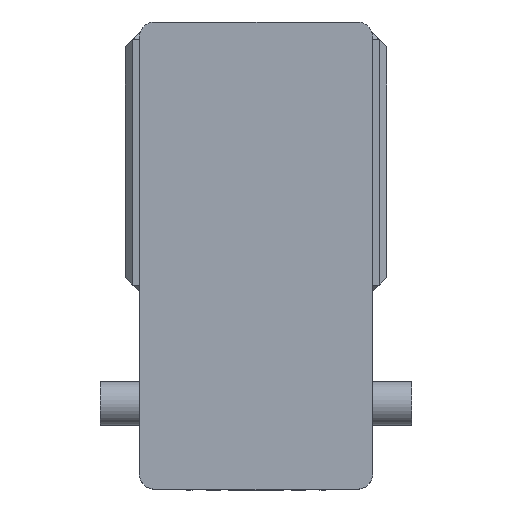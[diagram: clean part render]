
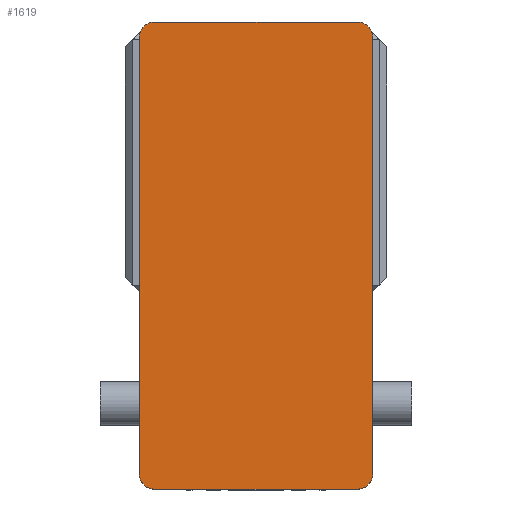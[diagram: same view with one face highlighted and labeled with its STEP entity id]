
A CAD part, left-side view. The second image highlights one B-rep face of the part: STEP entity #1619.
In plain terms, the highlighted planar face has unit normal (-1, 0, 0) as drawn and (0, 0, 1) by its records, which use the part's own axes.
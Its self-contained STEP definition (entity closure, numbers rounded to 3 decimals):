
#16 = DIRECTION ( 'NONE',  ( -1., 0., 0. ) ) ;
#118 = CARTESIAN_POINT ( 'NONE',  ( -75., 150., 105. ) ) ;
#173 = VERTEX_POINT ( 'NONE', #6109 ) ;
#624 = CARTESIAN_POINT ( 'NONE',  ( -65., -150., 105. ) ) ;
#923 = ORIENTED_EDGE ( 'NONE', *, *, #10597, .T. ) ;
#1115 = CARTESIAN_POINT ( 'NONE',  ( 75., 140., 105. ) ) ;
#1148 = CIRCLE ( 'NONE', #3225, 10. ) ;
#1201 = LINE ( 'NONE', #118, #1213 ) ;
#1213 = VECTOR ( 'NONE', #16, 1000. ) ;
#1356 = DIRECTION ( 'NONE',  ( 1., 0., 0. ) ) ;
#1367 = DIRECTION ( 'NONE',  ( 0., 0., 1. ) ) ;
#1377 = CARTESIAN_POINT ( 'NONE',  ( -65., 140., 105. ) ) ;
#1619 = ADVANCED_FACE ( 'NONE', ( #8904 ), #4923, .T. ) ;
#1628 = CIRCLE ( 'NONE', #3597, 10. ) ;
#2213 = EDGE_LOOP ( 'NONE', ( #5878, #4546, #5781, #7576, #5846, #7431, #8950, #923 ) ) ;
#2381 = VECTOR ( 'NONE', #3766, 1000. ) ;
#2466 = LINE ( 'NONE', #3796, #2381 ) ;
#2663 = VERTEX_POINT ( 'NONE', #624 ) ;
#2727 = LINE ( 'NONE', #4688, #2752 ) ;
#2752 = VECTOR ( 'NONE', #4677, 1000. ) ;
#2805 = VECTOR ( 'NONE', #3549, 1000. ) ;
#2817 = CIRCLE ( 'NONE', #6170, 10. ) ;
#2832 = LINE ( 'NONE', #3558, #2805 ) ;
#2841 = CARTESIAN_POINT ( 'NONE',  ( -65., 150., 105. ) ) ;
#2992 = VERTEX_POINT ( 'NONE', #10328 ) ;
#3153 = DIRECTION ( 'NONE',  ( 1., 0., 0. ) ) ;
#3165 = DIRECTION ( 'NONE',  ( 0., 0., 1. ) ) ;
#3179 = CARTESIAN_POINT ( 'NONE',  ( -65., -140., 105. ) ) ;
#3180 = EDGE_CURVE ( 'NONE', #173, #2992, #6362, .T. ) ;
#3225 = AXIS2_PLACEMENT_3D ( 'NONE', #10331, #10233, #10254 ) ;
#3549 = DIRECTION ( 'NONE',  ( 1., 0., 0. ) ) ;
#3558 = CARTESIAN_POINT ( 'NONE',  ( -75., -150., 105. ) ) ;
#3597 = AXIS2_PLACEMENT_3D ( 'NONE', #1377, #1367, #1356 ) ;
#3766 = DIRECTION ( 'NONE',  ( 0., -1., 0. ) ) ;
#3796 = CARTESIAN_POINT ( 'NONE',  ( -75., 150., 105. ) ) ;
#3978 = VERTEX_POINT ( 'NONE', #1115 ) ;
#4546 = ORIENTED_EDGE ( 'NONE', *, *, #3180, .T. ) ;
#4677 = DIRECTION ( 'NONE',  ( 0., 1., 0. ) ) ;
#4688 = CARTESIAN_POINT ( 'NONE',  ( 75., 150., 105. ) ) ;
#4879 = DIRECTION ( 'NONE',  ( 1., 0., 0. ) ) ;
#4881 = DIRECTION ( 'NONE',  ( 0., 0., 1. ) ) ;
#4923 = PLANE ( 'NONE',  #7380 ) ;
#5009 = CARTESIAN_POINT ( 'NONE',  ( 0., 0., 105. ) ) ;
#5209 = EDGE_CURVE ( 'NONE', #2992, #3978, #2727, .T. ) ;
#5426 = EDGE_CURVE ( 'NONE', #8358, #8643, #2466, .T. ) ;
#5781 = ORIENTED_EDGE ( 'NONE', *, *, #5209, .T. ) ;
#5833 = EDGE_CURVE ( 'NONE', #6657, #8358, #1628, .T. ) ;
#5846 = ORIENTED_EDGE ( 'NONE', *, *, #6234, .T. ) ;
#5878 = ORIENTED_EDGE ( 'NONE', *, *, #10582, .T. ) ;
#6109 = CARTESIAN_POINT ( 'NONE',  ( 65., -150., 105. ) ) ;
#6170 = AXIS2_PLACEMENT_3D ( 'NONE', #3179, #3165, #3153 ) ;
#6234 = EDGE_CURVE ( 'NONE', #10057, #6657, #1201, .T. ) ;
#6328 = EDGE_CURVE ( 'NONE', #3978, #10057, #1148, .T. ) ;
#6362 = CIRCLE ( 'NONE', #6886, 10. ) ;
#6657 = VERTEX_POINT ( 'NONE', #2841 ) ;
#6886 = AXIS2_PLACEMENT_3D ( 'NONE', #8426, #8422, #8370 ) ;
#7380 = AXIS2_PLACEMENT_3D ( 'NONE', #5009, #4881, #4879 ) ;
#7431 = ORIENTED_EDGE ( 'NONE', *, *, #5833, .T. ) ;
#7576 = ORIENTED_EDGE ( 'NONE', *, *, #6328, .T. ) ;
#8358 = VERTEX_POINT ( 'NONE', #10663 ) ;
#8370 = DIRECTION ( 'NONE',  ( 1., 0., 0. ) ) ;
#8371 = CARTESIAN_POINT ( 'NONE',  ( 65., 150., 105. ) ) ;
#8422 = DIRECTION ( 'NONE',  ( 0., 0., 1. ) ) ;
#8426 = CARTESIAN_POINT ( 'NONE',  ( 65., -140., 105. ) ) ;
#8643 = VERTEX_POINT ( 'NONE', #9244 ) ;
#8904 = FACE_OUTER_BOUND ( 'NONE', #2213, .T. ) ;
#8950 = ORIENTED_EDGE ( 'NONE', *, *, #5426, .T. ) ;
#9244 = CARTESIAN_POINT ( 'NONE',  ( -75., -140., 105. ) ) ;
#10057 = VERTEX_POINT ( 'NONE', #8371 ) ;
#10233 = DIRECTION ( 'NONE',  ( 0., 0., 1. ) ) ;
#10254 = DIRECTION ( 'NONE',  ( 1., 0., 0. ) ) ;
#10328 = CARTESIAN_POINT ( 'NONE',  ( 75., -140., 105. ) ) ;
#10331 = CARTESIAN_POINT ( 'NONE',  ( 65., 140., 105. ) ) ;
#10582 = EDGE_CURVE ( 'NONE', #2663, #173, #2832, .T. ) ;
#10597 = EDGE_CURVE ( 'NONE', #8643, #2663, #2817, .T. ) ;
#10663 = CARTESIAN_POINT ( 'NONE',  ( -75., 140., 105. ) ) ;
